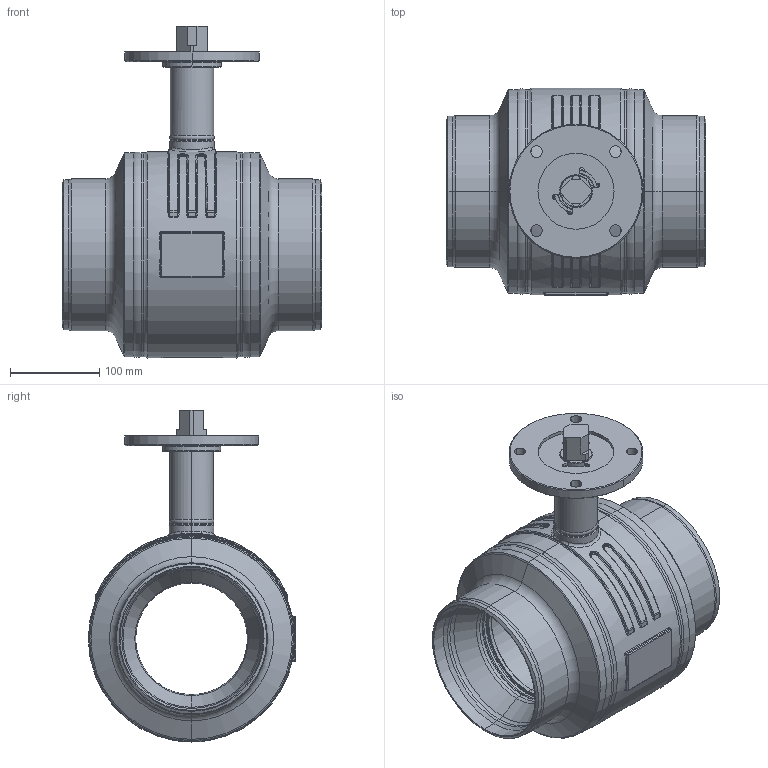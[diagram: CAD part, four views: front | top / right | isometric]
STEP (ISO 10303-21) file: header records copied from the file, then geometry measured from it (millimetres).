
FILE_DESCRIPTION((''),'2;1');
FILE_NAME('KHMO-S-R-H-150R125P04_SW0001','2025-04-22T14:47:03',('jeitlers'),('KLINGER'),'CREO PARAMETRIC BY PTC INC, 2023014','CREO PARAMETRIC BY PTC INC, 2023014','');
FILE_SCHEMA(('CONFIG_CONTROL_DESIGN'));
Length unit declared in the file: millimetre
Products named in the file (1): KHMO-S-R-H-150R125P04_SW0001
Bounding box: 290 x 232 x 371.5 mm (x, y, z)
Volume: 3508162.2 mm3; surface area: 851363.7 mm2
Topology: 2 solids, 2 shells, 559 faces, 1321 edges, 776 vertices
Faces by surface type: cylinder 190, torus 120, plane 107, cone 82, bspline 52, sphere 8
Entity records: 28681 total; most frequent: CARTESIAN_POINT 15752, DIRECTION 2899, ORIENTED_EDGE 2626, EDGE_CURVE 1313, AXIS2_PLACEMENT_3D 1231, VERTEX_POINT 776, CIRCLE 724, EDGE_LOOP 605
